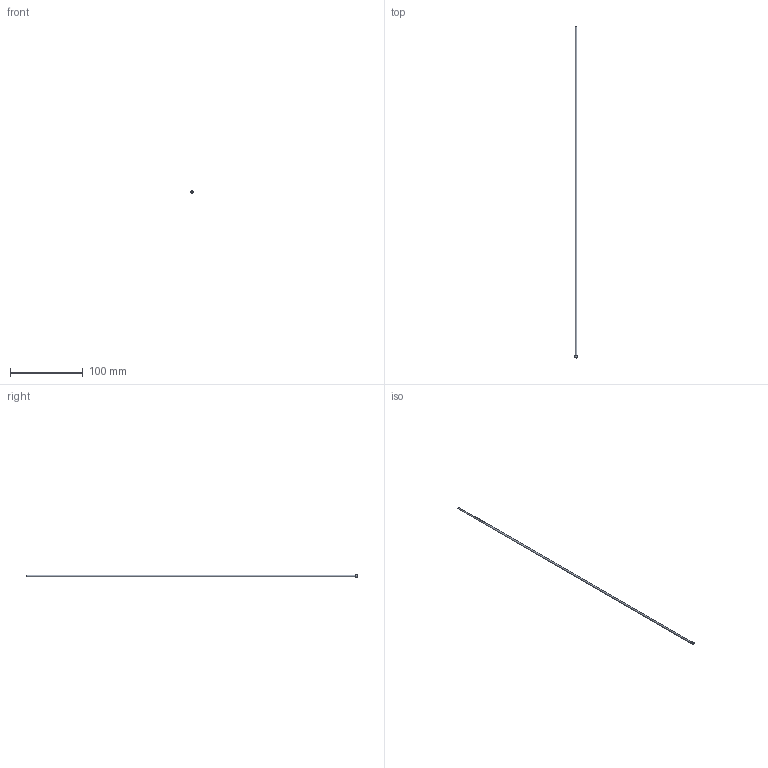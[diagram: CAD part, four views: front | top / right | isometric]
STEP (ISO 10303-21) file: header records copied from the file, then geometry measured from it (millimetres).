
FILE_DESCRIPTION(/* description */ (''),/* implementation_level */ '2;1');
FILE_NAME(/* name */ 'C:/Users/drich/Desktop/HF093T-18 v1.step',/* time_stamp */ '2019-12-30T13:29:40-06:00',/* author */ (''),/* organization */ (''),/* preprocessor_version */ 'ST-DEVELOPER v18',/* originating_system */ 'Autodesk Translation Framework v8.12.0.6',/* authorisation */ '');
FILE_SCHEMA (('AUTOMOTIVE_DESIGN { 1 0 10303 214 3 1 1 }'));
Length unit declared in the file: inch
Products named in the file (1): HF093T-18
Bounding box: 3.23 x 457.2 x 3.23 mm (x, y, z)
Volume: 550.7 mm3; surface area: 6073.5 mm2
Topology: 1 solids, 1 shells, 11 faces, 27 edges, 20 vertices
Faces by surface type: cylinder 4, plane 4, torus 2, cone 1
Full cylindrical faces by diameter (mm): 1.93 x1, 2.286 x1, 3.096 x1, 3.226 x1
Entity records: 390 total; most frequent: DIRECTION 73, CARTESIAN_POINT 59, ORIENTED_EDGE 54, AXIS2_PLACEMENT_3D 34, EDGE_CURVE 27, CIRCLE 22, VERTEX_POINT 20, EDGE_LOOP 15
